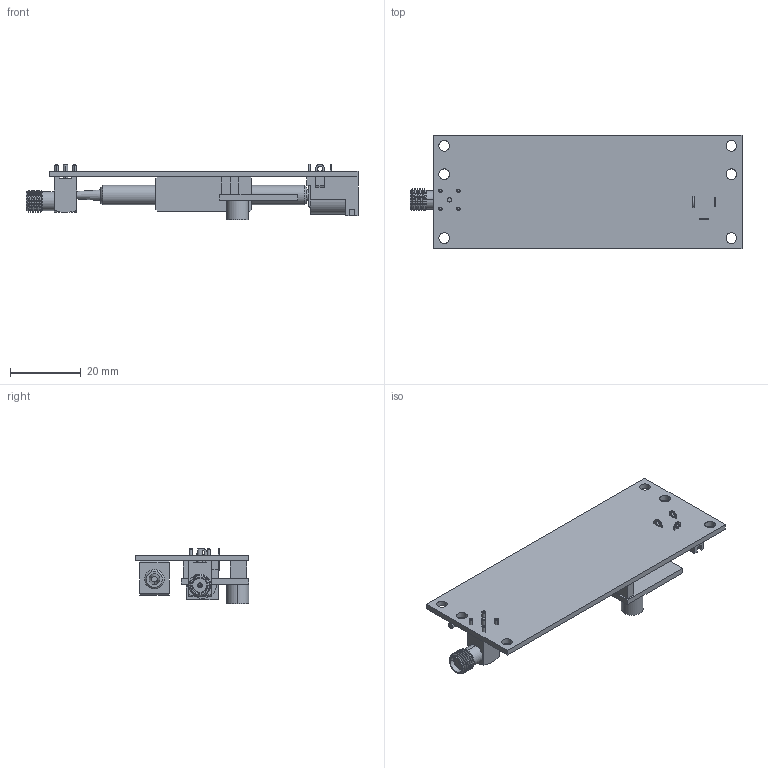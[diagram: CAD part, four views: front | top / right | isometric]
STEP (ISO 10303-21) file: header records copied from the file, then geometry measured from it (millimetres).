
FILE_DESCRIPTION (( 'STEP AP214' ), '1' );
FILE_NAME ('nanospeed switch driver.STEP', '2024-12-05T22:47:14', ( '' ), ( '' ), 'SwSTEP 2.0', 'SolidWorks 2018', '' );
FILE_SCHEMA (( 'AUTOMOTIVE_DESIGN' ));
Length unit declared in the file: millimetre
Products named in the file (6): daughter board; SMA Connector; nanospeed switch driver; power cable; nanospeed switch driver board; nanospeed switch
Assembly tree (5 placements, depth 2):
  nanospeed switch driver
    nanospeed switch driver board
    power cable
    SMA Connector
    daughter board
    nanospeed switch
Bounding box: 93.65 x 32 x 15.6 mm (x, y, z)
Volume: 9932.3 mm3; surface area: 10708.5 mm2
Topology: 5 solids, 5 shells, 239 faces, 597 edges, 387 vertices
Faces by surface type: plane 104, cylinder 95, cone 36, torus 2, bspline 2
Entity records: 11093 total; most frequent: CARTESIAN_POINT 3049, DIRECTION 1207, ORIENTED_EDGE 1190, EDGE_CURVE 595, AXIS2_PLACEMENT_3D 441, VERTEX_POINT 387, VECTOR 325, LINE 325
